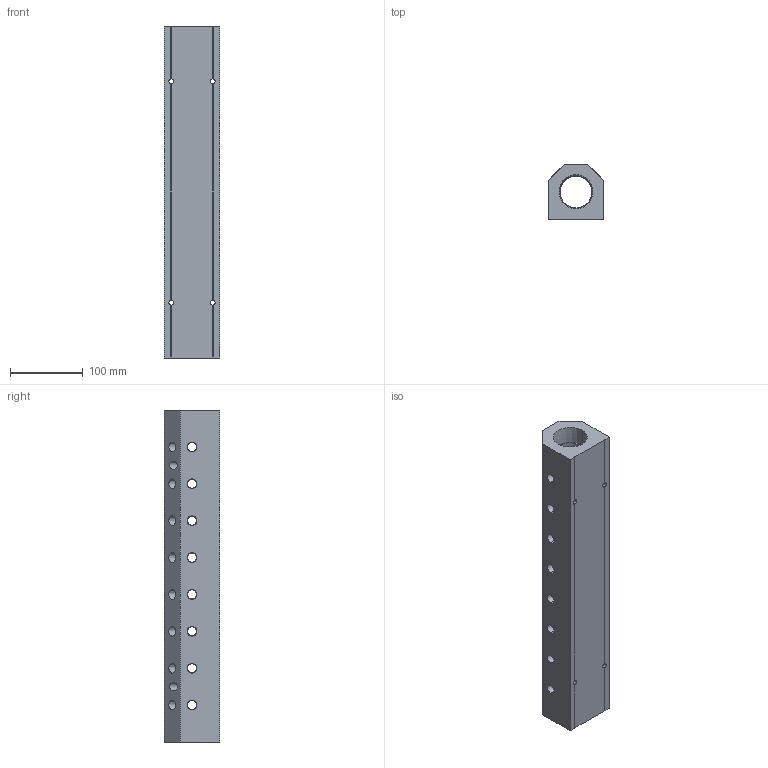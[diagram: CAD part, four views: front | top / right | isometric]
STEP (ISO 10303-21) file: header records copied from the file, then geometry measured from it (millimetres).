
FILE_DESCRIPTION (( 'STEP AP214' ), '1' );
FILE_NAME ('ALM8ABCDE-N4N24-457B.step', '2022-02-07T07:46:28', ( '' ), ( '' ), 'SwSTEP 2.0', 'SolidWorks 2020', '' );
FILE_SCHEMA (( 'AUTOMOTIVE_DESIGN' ));
Length unit declared in the file: millimetre
Products named in the file (1): ALM8ABCDE-N4N24-457B
Bounding box: 76.2 x 76.2 x 457 mm (x, y, z)
Volume: 1618860.2 mm3; surface area: 220206.9 mm2
Topology: 1 solids, 1 shells, 426 faces, 1160 edges, 760 vertices
Faces by surface type: plane 256, cone 84, bspline 68, cylinder 18
Entity records: 25185 total; most frequent: CARTESIAN_POINT 10679, ORIENTED_EDGE 2320, DIRECTION 1762, EDGE_CURVE 1160, LINE 812, VECTOR 812, VERTEX_POINT 760, EDGE_LOOP 540
